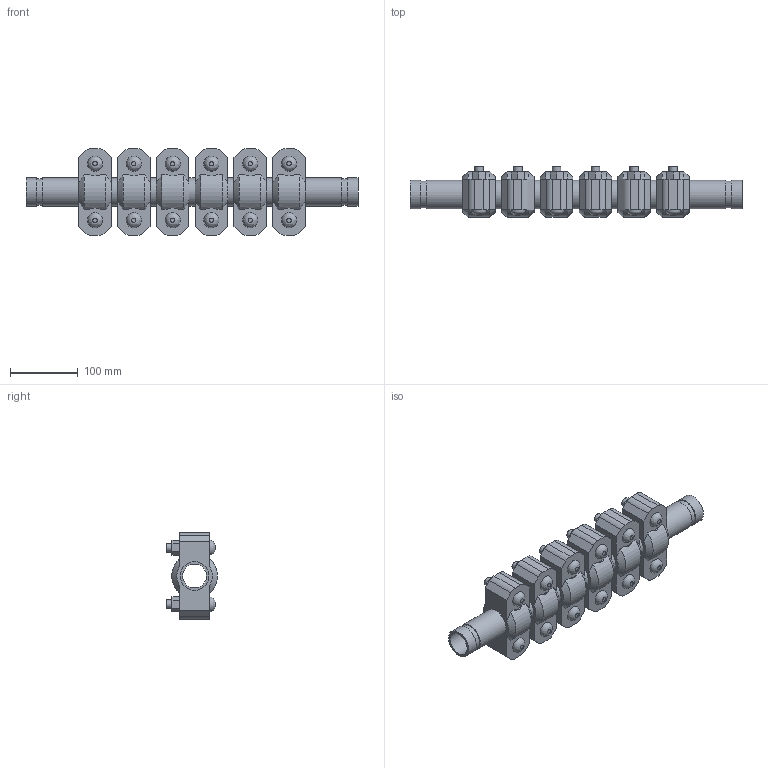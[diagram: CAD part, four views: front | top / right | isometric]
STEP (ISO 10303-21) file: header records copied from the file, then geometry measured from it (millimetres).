
FILE_DESCRIPTION(/* description */ ('VIC EXPANSION JOINT 6 COUPLINGS COMPRESSED STYLE 155 (OGS)','CAx-IF Rec.Pracs.---Representation and Presentation of Product Manufacturing Information (PMI)---4.0---2014-10-13'),/* implementation_level */ '2;1');
FILE_NAME(/* name */ 'C:\Users\kkamble\AppData\Roaming\Autodesk\ApplicationPlugins\Victaulic.Temp\A354\Victaulic_IPS_Expansion Joint_Compressed_6 Couplings_Style 155 (OGS)_1.25 (32).stp',/* time_stamp */ '2021-06-27T00:31:20+02:00',/* author */ ('kkamble'),/* organization */ ('Victaulic'),/* preprocessor_version */ 'ST-DEVELOPER v17.2',/* originating_system */ 'Autodesk Inventor 2019',/* authorisation */ '');
FILE_SCHEMA (('AP242_MANAGED_MODEL_BASED_3D_ENGINEERING_MIM_LF { 1 0 10303 442 1 1 4 }'));
Length unit declared in the file: inch
Products named in the file (4): 155-01.25; Nipple-01.25; Nipple-01.25_1; 077-01.25
Assembly tree (13 placements, depth 2):
  155-01.25
    Nipple-01.25  x2
    Nipple-01.25_1  x5
    077-01.25  x6
Bounding box: 488.95 x 74.93 x 127 mm (x, y, z)
Volume: 1570056.3 mm3; surface area: 375081.6 mm2
Topology: 13 solids, 25 shells, 426 faces, 1044 edges, 732 vertices
Faces by surface type: plane 246, cylinder 144, cone 24, bspline 12
Full cylindrical faces by diameter (mm): 12.7 x24, 14.605 x12, 35.052 x7, 38.989 x14, 42.164 x27
Entity records: 2891 total; most frequent: CARTESIAN_POINT 543, DIRECTION 471, ORIENTED_EDGE 398, EDGE_CURVE 199, AXIS2_PLACEMENT_3D 188, VERTEX_POINT 142, EDGE_LOOP 105, LINE 95
